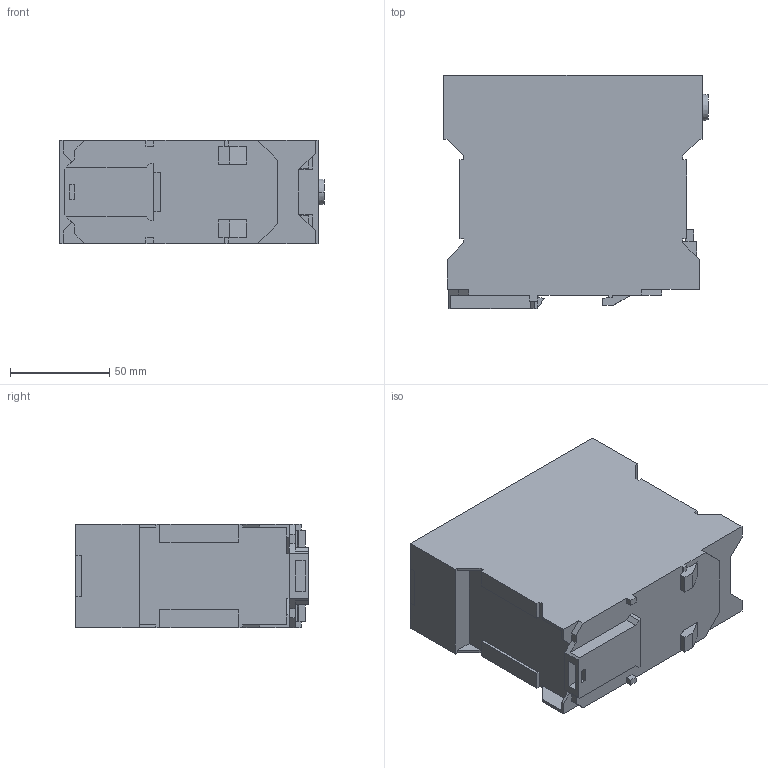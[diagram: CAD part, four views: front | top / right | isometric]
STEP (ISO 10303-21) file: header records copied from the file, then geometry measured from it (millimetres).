
FILE_DESCRIPTION(('SolidDesigner STEP Export'),'2;1');
FILE_NAME('2866417_MINI_BAT_24DC_1.3AH-select.stp','2011-05-31T12:39:09',(''),(''),'CoCreate Modeling STEP processor for AP214 (Solid Model)','CoCreate Modeling 16.00A 16-Aug-2008 (C) Parametric Technology GmbH','');
FILE_SCHEMA(('AUTOMOTIVE_DESIGN { 1 0 10303 214 1 1 1 1 }'));
Length unit declared in the file: millimetre
Products named in the file (2): 2866417_MINI_BAT_24DC_1.3AH-select
Assembly tree (1 placements, depth 2):
  2866417_MINI_BAT_24DC_1.3AH-select
    2866417_MINI_BAT_24DC_1.3AH-select
Bounding box: 133 x 117.1 x 52 mm (x, y, z)
Volume: 677989.5 mm3; surface area: 58806.2 mm2
Topology: 1 solids, 1 shells, 166 faces, 484 edges, 322 vertices
Faces by surface type: plane 154, cylinder 10, cone 2
Entity records: 6604 total; most frequent: ORIENTED_EDGE 968, CARTESIAN_POINT 935, DIRECTION 784, EDGE_CURVE 484, VECTOR 442, LINE 442, VERTEX_POINT 322, EDGE_LOOP 174
